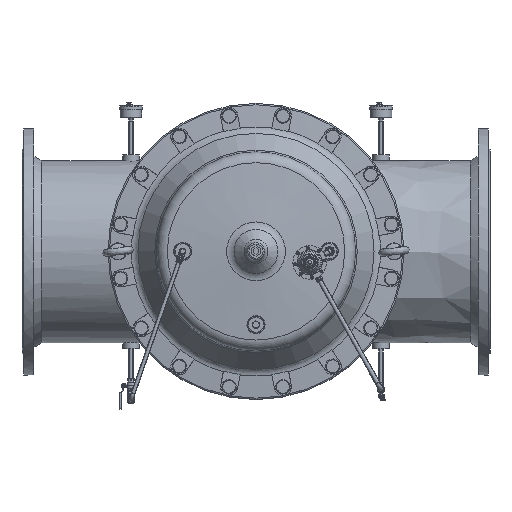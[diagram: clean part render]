
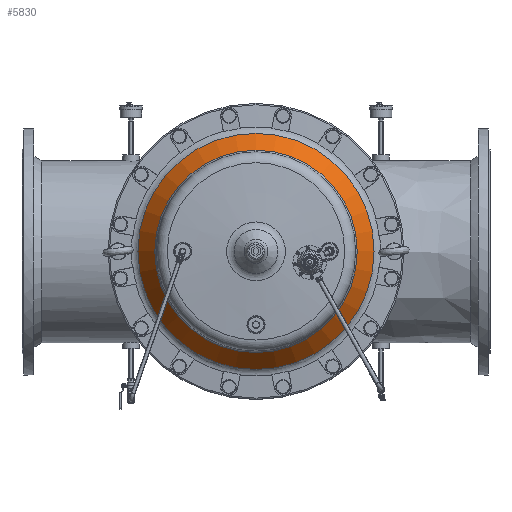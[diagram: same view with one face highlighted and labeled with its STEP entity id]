
A CAD part, top view. The second image highlights one B-rep face of the part: STEP entity #5830.
In plain terms, the highlighted conical face has half-angle 35.538 degrees and reference radius 257.721 mm.
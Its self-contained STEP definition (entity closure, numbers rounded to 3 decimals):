
#5830=ADVANCED_FACE('',(#18995,#18997),#18999,.T.);
#18995=FACE_OUTER_BOUND('',#18996,.T.);
#18996=EDGE_LOOP('',(#44422));
#18997=FACE_OUTER_BOUND('',#18998,.T.);
#18998=EDGE_LOOP('',(#44423));
#18999=CONICAL_SURFACE('',#19000,257.721,0.62);
#19000=AXIS2_PLACEMENT_3D('',#19001,#19002,#19003);
#19001=CARTESIAN_POINT('',(0.,-55.277,0.));
#19002=DIRECTION('',(0.,1.,0.));
#19003=DIRECTION('',(-1.,0.,0.));
#44422=ORIENTED_EDGE('',*,*,#51519,.F.);
#44423=ORIENTED_EDGE('',*,*,#51499,.F.);
#51499=EDGE_CURVE('',#56336,#56336,#56337,.T.);
#51519=EDGE_CURVE('',#56376,#56376,#56377,.F.);
#56336=VERTEX_POINT('',#79837);
#56337=CIRCLE('',#79838,237.912);
#56376=VERTEX_POINT('',#79937);
#56377=CIRCLE('',#79938,277.53);
#79837=CARTESIAN_POINT('',(237.912,-83.01,0.));
#79838=AXIS2_PLACEMENT_3D('',#79839,#79840,#79841);
#79839=CARTESIAN_POINT('',(0.,-83.01,0.));
#79840=DIRECTION('',(0.,-1.,0.));
#79841=DIRECTION('',(1.,0.,0.));
#79937=CARTESIAN_POINT('',(277.53,-27.544,0.));
#79938=AXIS2_PLACEMENT_3D('',#79939,#79940,#79941);
#79939=CARTESIAN_POINT('',(0.,-27.544,0.));
#79940=DIRECTION('',(0.,-1.,0.));
#79941=DIRECTION('',(1.,0.,0.));
